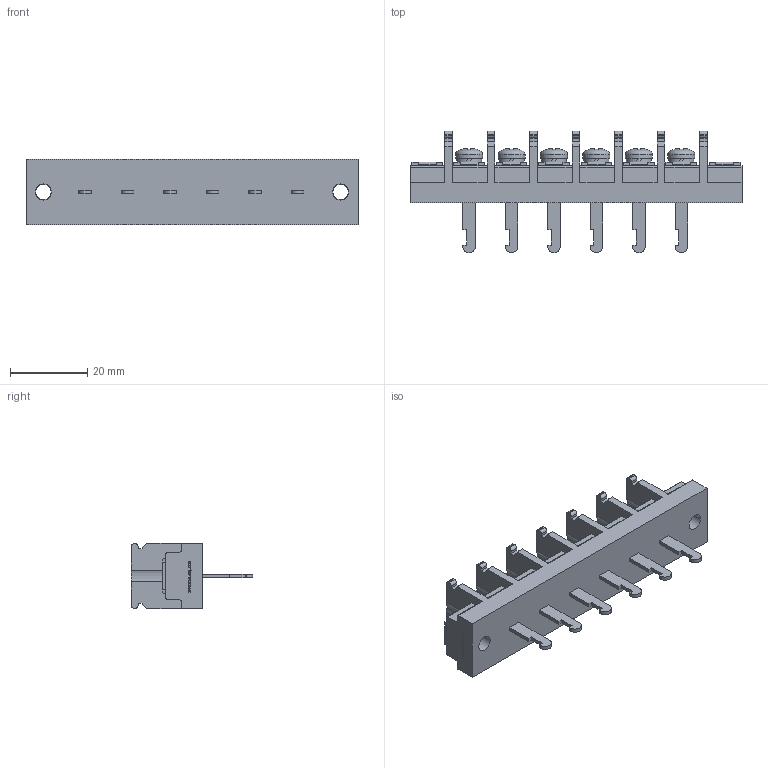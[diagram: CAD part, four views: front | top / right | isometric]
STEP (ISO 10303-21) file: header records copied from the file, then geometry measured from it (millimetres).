
FILE_DESCRIPTION(/* description */ ('Alibre Inc.'),/* implementation_level */ '2;1');
FILE_NAME(/* name */ 'export0',/* time_stamp */ '2015-10-19T19:59:10+09:00',/* author */ (''),/* organization */ (''),/* preprocessor_version */ 'ST-DEVELOPER v14',/* originating_system */ 'Alibre',/* authorisation */ '');
FILE_SCHEMA (('CONFIG_CONTROL_DESIGN'));
Length unit declared in the file: centimetre
Products named in the file (1): ID_1
Bounding box: 86 x 31.5 x 17 mm (x, y, z)
Volume: 15560.7 mm3; surface area: 9204.2 mm2
Topology: 1 solids, 1 shells, 918 faces, 2546 edges, 1692 vertices
Faces by surface type: plane 654, cylinder 118, bspline 104, cone 24, torus 12, sphere 6
Full cylindrical faces by diameter (mm): 4 x8, 4.2 x2, 6.5 x6, 7 x6
Entity records: 28344 total; most frequent: CARTESIAN_POINT 6173, ORIENTED_EDGE 4996, DIRECTION 3585, EDGE_CURVE 2498, VECTOR 1803, LINE 1803, VERTEX_POINT 1672, AXIS2_PLACEMENT_3D 1210
